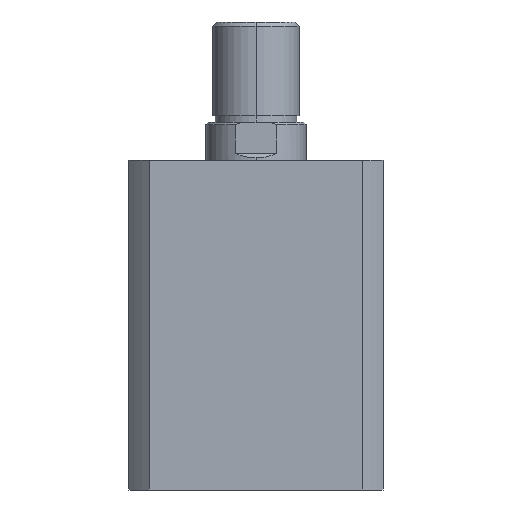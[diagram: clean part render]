
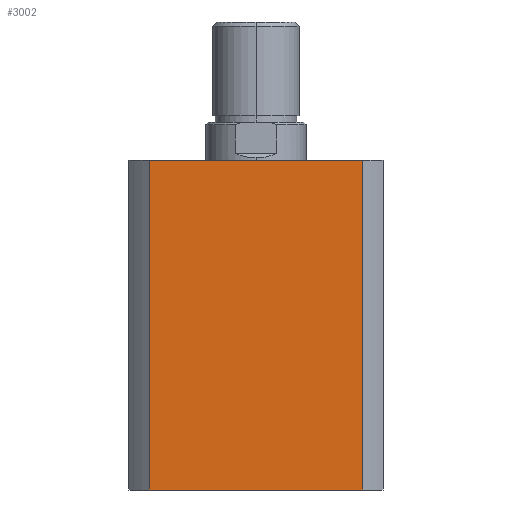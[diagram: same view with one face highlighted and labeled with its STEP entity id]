
A CAD part, left-side view. The second image highlights one B-rep face of the part: STEP entity #3002.
In plain terms, the highlighted planar face has unit normal (-1, 0, 0).
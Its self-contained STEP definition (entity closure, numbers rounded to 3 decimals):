
#170 = EDGE_LOOP ( 'NONE', ( #253, #230, #235, #260 ) ) ;
#230 = ORIENTED_EDGE ( 'NONE', *, *, #1131, .F. ) ;
#235 = ORIENTED_EDGE ( 'NONE', *, *, #1130, .F. ) ;
#253 = ORIENTED_EDGE ( 'NONE', *, *, #1107, .T. ) ;
#260 = ORIENTED_EDGE ( 'NONE', *, *, #1129, .T. ) ;
#285 = LINE ( 'NONE', #2754, #289 ) ;
#289 = VECTOR ( 'NONE', #2756, 1000. ) ;
#310 = LINE ( 'NONE', #2604, #316 ) ;
#315 = LINE ( 'NONE', #2598, #318 ) ;
#316 = VECTOR ( 'NONE', #2609, 1000. ) ;
#317 = LINE ( 'NONE', #2595, #320 ) ;
#318 = VECTOR ( 'NONE', #2596, 1000. ) ;
#320 = VECTOR ( 'NONE', #2594, 1000. ) ;
#505 = FACE_OUTER_BOUND ( 'NONE', #170, .T. ) ;
#813 = AXIS2_PLACEMENT_3D ( 'NONE', #4673, #4666, #4665 ) ;
#1107 = EDGE_CURVE ( 'NONE', #2383, #2373, #285, .T. ) ;
#1129 = EDGE_CURVE ( 'NONE', #4172, #2383, #310, .T. ) ;
#1130 = EDGE_CURVE ( 'NONE', #4172, #2382, #315, .T. ) ;
#1131 = EDGE_CURVE ( 'NONE', #2382, #2373, #317, .T. ) ;
#2373 = VERTEX_POINT ( 'NONE', #4750 ) ;
#2382 = VERTEX_POINT ( 'NONE', #4741 ) ;
#2383 = VERTEX_POINT ( 'NONE', #4740 ) ;
#2594 = DIRECTION ( 'NONE',  ( 0., 0., -1. ) ) ;
#2595 = CARTESIAN_POINT ( 'NONE',  ( -57., -47.971, 148. ) ) ;
#2596 = DIRECTION ( 'NONE',  ( 0., -1., 0. ) ) ;
#2598 = CARTESIAN_POINT ( 'NONE',  ( -57., 0., 148. ) ) ;
#2604 = CARTESIAN_POINT ( 'NONE',  ( -57., 47.971, 148. ) ) ;
#2609 = DIRECTION ( 'NONE',  ( 0., 0., -1. ) ) ;
#2754 = CARTESIAN_POINT ( 'NONE',  ( -57., 0., 0. ) ) ;
#2756 = DIRECTION ( 'NONE',  ( 0., -1., 0. ) ) ;
#3002 = ADVANCED_FACE ( 'NONE', ( #505 ), #4668, .F. ) ;
#3440 = CARTESIAN_POINT ( 'NONE',  ( -57., 47.971, 148. ) ) ;
#4172 = VERTEX_POINT ( 'NONE', #3440 ) ;
#4665 = DIRECTION ( 'NONE',  ( 0., 0., -1. ) ) ;
#4666 = DIRECTION ( 'NONE',  ( 1., 0., 0. ) ) ;
#4668 = PLANE ( 'NONE',  #813 ) ;
#4673 = CARTESIAN_POINT ( 'NONE',  ( -57., 0., 148. ) ) ;
#4740 = CARTESIAN_POINT ( 'NONE',  ( -57., 47.971, 0. ) ) ;
#4741 = CARTESIAN_POINT ( 'NONE',  ( -57., -47.971, 148. ) ) ;
#4750 = CARTESIAN_POINT ( 'NONE',  ( -57., -47.971, 0. ) ) ;
